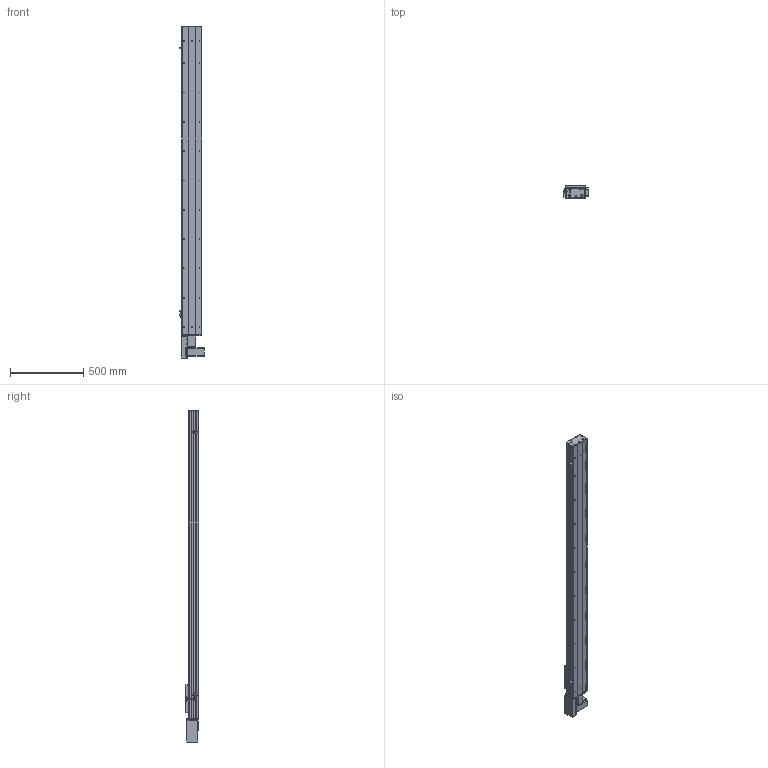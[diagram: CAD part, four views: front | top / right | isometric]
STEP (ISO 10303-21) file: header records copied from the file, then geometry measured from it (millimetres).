
FILE_DESCRIPTION (( 'STEP AP203' ), '1' );
FILE_NAME ('Y135CB-D90-S1800-BR-P400W.STEP', '2020-02-18T02:50:28', ( '微软用户' ), ( '微软中国' ), 'SwSTEP 2.0', 'SolidWorks 2017', '' );
FILE_SCHEMA (( 'CONFIG_CONTROL_DESIGN' ));
Length unit declared in the file: millimetre
Products named in the file (18): 35CB---喘謫眊楊擘啣; 135CB--詩湍-CE; Y10B-耜蚾蟀諉啣----; Y100-135俋离換覜ん--; Y俋欶BR----; Y135C-陔俋离換覜結え-; 0B-埴倛裔啣; 5C--俋欶; 0B-源倛裔啣; C-雄赽釱--; 0B-萇儂楊擘啣; Y10B--々湍喘謫眊--666; san松下电机400不带刹车----; Y135CB-耜裔; Y135CB-D90-S1800-BR-P400W; 5CB --掛极耜裔啣-; 135CB---遴掛极.-; C-詩湍揤踡え-陔
Assembly tree (21 placements, depth 2):
  Y135CB-D90-S1800-BR-P400W
    Y135CB-耜裔
    135CB---遴掛极.-
    35CB---喘謫眊楊擘啣
    Y10B-耜蚾蟀諉啣----
    Y俋欶BR----
    0B-埴倛裔啣
    0B-源倛裔啣
    0B-萇儂楊擘啣
    san松下电机400不带刹车----
    5CB --掛极耜裔啣-  x2
    C-詩湍揤踡え-陔  x2
    135CB--詩湍-CE
    Y100-135俋离換覜ん--  x3
    Y135C-陔俋离換覜結え-
    5C--俋欶
    C-雄赽釱--
    Y10B--々湍喘謫眊--666
Bounding box: 167.5 x 91 x 2264.5 mm (x, y, z)
Volume: 6464831.3 mm3; surface area: 2551343.3 mm2
Topology: 21 solids, 21 shells, 961 faces, 2599 edges, 1722 vertices
Faces by surface type: cylinder 487, plane 458, cone 16
Entity records: 30149 total; most frequent: DIRECTION 5007, CARTESIAN_POINT 4988, ORIENTED_EDGE 4674, EDGE_CURVE 2337, AXIS2_PLACEMENT_3D 1829, VERTEX_POINT 1550, LINE 1349, VECTOR 1349
